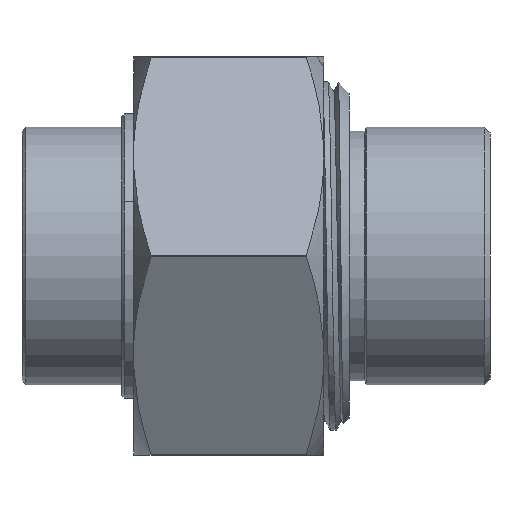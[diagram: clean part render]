
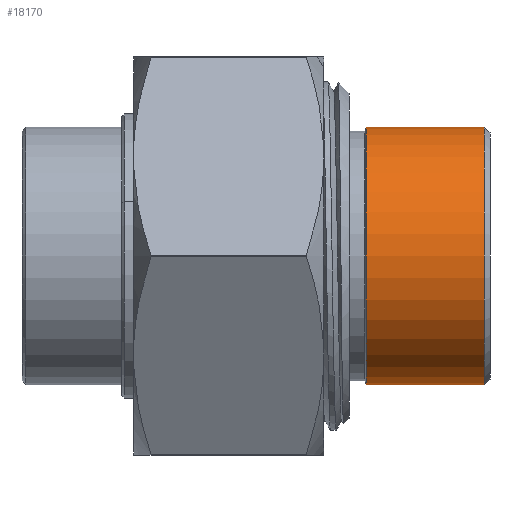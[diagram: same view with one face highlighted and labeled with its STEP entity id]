
A CAD part, front view. The second image highlights one B-rep face of the part: STEP entity #18170.
In plain terms, the highlighted cylindrical face has radius 0.64 mm (diameter 1.28 mm), a partial arc.
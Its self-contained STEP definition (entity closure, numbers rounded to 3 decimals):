
#89 = VERTEX_POINT('',#90);
#90 = CARTESIAN_POINT('',(-59.574,0.,
    -13.743));
#104 = CONICAL_SURFACE('',#105,0.64,0.785);
#105 = AXIS2_PLACEMENT_3D('',#106,#107,#108);
#106 = CARTESIAN_POINT('',(-59.574,0.,
    -13.103));
#107 = DIRECTION('',(-1.,0.,0.));
#108 = DIRECTION('',(0.,0.,1.));
#117 = VERTEX_POINT('',#118);
#118 = CARTESIAN_POINT('',(-59.574,0.,
    -12.462));
#133 = CYLINDRICAL_SURFACE('',#134,0.64);
#134 = AXIS2_PLACEMENT_3D('',#135,#136,#137);
#135 = CARTESIAN_POINT('',(-61.399,0.,
    -13.103));
#136 = DIRECTION('',(-1.,0.,0.));
#137 = DIRECTION('',(0.,0.,1.));
#870 = EDGE_CURVE('',#89,#871,#873,.T.);
#871 = VERTEX_POINT('',#872);
#872 = CARTESIAN_POINT('',(-60.162,0.,
    -13.743));
#873 = SURFACE_CURVE('',#874,(#878,#885),.PCURVE_S1.);
#874 = LINE('',#875,#876);
#875 = CARTESIAN_POINT('',(-61.399,0.,
    -13.743));
#876 = VECTOR('',#877,1.);
#877 = DIRECTION('',(-1.,0.,0.));
#878 = PCURVE('',#133,#879);
#879 = DEFINITIONAL_REPRESENTATION('',(#880),#884);
#880 = LINE('',#881,#882);
#881 = CARTESIAN_POINT('',(3.142,0.));
#882 = VECTOR('',#883,1.);
#883 = DIRECTION('',(0.,1.));
#884 = ( GEOMETRIC_REPRESENTATION_CONTEXT(2) 
PARAMETRIC_REPRESENTATION_CONTEXT() REPRESENTATION_CONTEXT('2D SPACE',''
  ) );
#885 = PCURVE('',#886,#891);
#886 = CYLINDRICAL_SURFACE('',#887,0.64);
#887 = AXIS2_PLACEMENT_3D('',#888,#889,#890);
#888 = CARTESIAN_POINT('',(-61.399,0.,
    -13.103));
#889 = DIRECTION('',(-1.,0.,0.));
#890 = DIRECTION('',(0.,0.,1.));
#891 = DEFINITIONAL_REPRESENTATION('',(#892),#896);
#892 = LINE('',#893,#894);
#893 = CARTESIAN_POINT('',(3.142,0.));
#894 = VECTOR('',#895,1.);
#895 = DIRECTION('',(0.,1.));
#896 = ( GEOMETRIC_REPRESENTATION_CONTEXT(2) 
PARAMETRIC_REPRESENTATION_CONTEXT() REPRESENTATION_CONTEXT('2D SPACE',''
  ) );
#899 = VERTEX_POINT('',#900);
#900 = CARTESIAN_POINT('',(-60.162,0.,
    -12.462));
#927 = EDGE_CURVE('',#117,#899,#928,.T.);
#928 = SURFACE_CURVE('',#929,(#933,#940),.PCURVE_S1.);
#929 = LINE('',#930,#931);
#930 = CARTESIAN_POINT('',(-61.399,0.,
    -12.462));
#931 = VECTOR('',#932,1.);
#932 = DIRECTION('',(-1.,0.,0.));
#933 = PCURVE('',#133,#934);
#934 = DEFINITIONAL_REPRESENTATION('',(#935),#939);
#935 = LINE('',#936,#937);
#936 = CARTESIAN_POINT('',(0.,0.));
#937 = VECTOR('',#938,1.);
#938 = DIRECTION('',(0.,1.));
#939 = ( GEOMETRIC_REPRESENTATION_CONTEXT(2) 
PARAMETRIC_REPRESENTATION_CONTEXT() REPRESENTATION_CONTEXT('2D SPACE',''
  ) );
#940 = PCURVE('',#886,#941);
#941 = DEFINITIONAL_REPRESENTATION('',(#942),#946);
#942 = LINE('',#943,#944);
#943 = CARTESIAN_POINT('',(6.283,0.));
#944 = VECTOR('',#945,1.);
#945 = DIRECTION('',(0.,1.));
#946 = ( GEOMETRIC_REPRESENTATION_CONTEXT(2) 
PARAMETRIC_REPRESENTATION_CONTEXT() REPRESENTATION_CONTEXT('2D SPACE',''
  ) );
#996 = CONICAL_SURFACE('',#997,0.64,1.226);
#997 = AXIS2_PLACEMENT_3D('',#998,#999,#1000);
#998 = CARTESIAN_POINT('',(-60.162,0.,
    -13.103));
#999 = DIRECTION('',(1.,0.,0.));
#1000 = DIRECTION('',(0.,0.,-1.));
#18149 = EDGE_CURVE('',#871,#899,#18150,.T.);
#18150 = SURFACE_CURVE('',#18151,(#18156,#18163),.PCURVE_S1.);
#18151 = CIRCLE('',#18152,0.64);
#18152 = AXIS2_PLACEMENT_3D('',#18153,#18154,#18155);
#18153 = CARTESIAN_POINT('',(-60.162,0.,
    -13.103));
#18154 = DIRECTION('',(-1.,0.,0.));
#18155 = DIRECTION('',(0.,0.,1.));
#18156 = PCURVE('',#996,#18157);
#18157 = DEFINITIONAL_REPRESENTATION('',(#18158),#18162);
#18158 = LINE('',#18159,#18160);
#18159 = CARTESIAN_POINT('',(9.425,0.));
#18160 = VECTOR('',#18161,1.);
#18161 = DIRECTION('',(-1.,0.));
#18162 = ( GEOMETRIC_REPRESENTATION_CONTEXT(2) 
PARAMETRIC_REPRESENTATION_CONTEXT() REPRESENTATION_CONTEXT('2D SPACE',''
  ) );
#18163 = PCURVE('',#886,#18164);
#18164 = DEFINITIONAL_REPRESENTATION('',(#18165),#18169);
#18165 = LINE('',#18166,#18167);
#18166 = CARTESIAN_POINT('',(0.,-1.238));
#18167 = VECTOR('',#18168,1.);
#18168 = DIRECTION('',(1.,0.));
#18169 = ( GEOMETRIC_REPRESENTATION_CONTEXT(2) 
PARAMETRIC_REPRESENTATION_CONTEXT() REPRESENTATION_CONTEXT('2D SPACE',''
  ) );
#18170 = ADVANCED_FACE('',(#18171),#886,.T.);
#18171 = FACE_BOUND('',#18172,.T.);
#18172 = EDGE_LOOP('',(#18173,#18174,#18196,#18197));
#18173 = ORIENTED_EDGE('',*,*,#870,.F.);
#18174 = ORIENTED_EDGE('',*,*,#18175,.T.);
#18175 = EDGE_CURVE('',#89,#117,#18176,.T.);
#18176 = SURFACE_CURVE('',#18177,(#18182,#18189),.PCURVE_S1.);
#18177 = CIRCLE('',#18178,0.64);
#18178 = AXIS2_PLACEMENT_3D('',#18179,#18180,#18181);
#18179 = CARTESIAN_POINT('',(-59.574,0.,
    -13.103));
#18180 = DIRECTION('',(-1.,0.,0.));
#18181 = DIRECTION('',(0.,0.,1.));
#18182 = PCURVE('',#886,#18183);
#18183 = DEFINITIONAL_REPRESENTATION('',(#18184),#18188);
#18184 = LINE('',#18185,#18186);
#18185 = CARTESIAN_POINT('',(0.,-1.826));
#18186 = VECTOR('',#18187,1.);
#18187 = DIRECTION('',(1.,0.));
#18188 = ( GEOMETRIC_REPRESENTATION_CONTEXT(2) 
PARAMETRIC_REPRESENTATION_CONTEXT() REPRESENTATION_CONTEXT('2D SPACE',''
  ) );
#18189 = PCURVE('',#104,#18190);
#18190 = DEFINITIONAL_REPRESENTATION('',(#18191),#18195);
#18191 = LINE('',#18192,#18193);
#18192 = CARTESIAN_POINT('',(0.,0.));
#18193 = VECTOR('',#18194,1.);
#18194 = DIRECTION('',(1.,0.));
#18195 = ( GEOMETRIC_REPRESENTATION_CONTEXT(2) 
PARAMETRIC_REPRESENTATION_CONTEXT() REPRESENTATION_CONTEXT('2D SPACE',''
  ) );
#18196 = ORIENTED_EDGE('',*,*,#927,.T.);
#18197 = ORIENTED_EDGE('',*,*,#18149,.F.);
